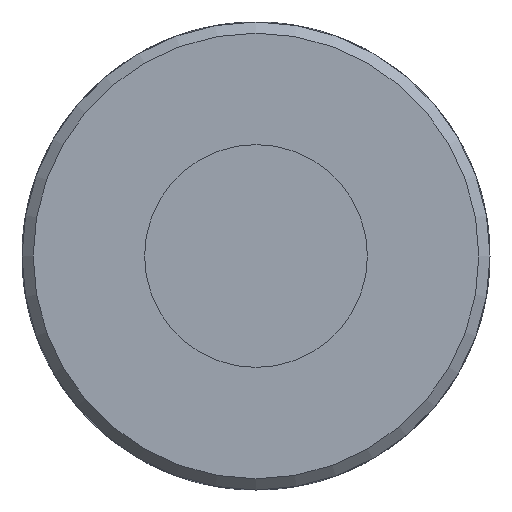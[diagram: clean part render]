
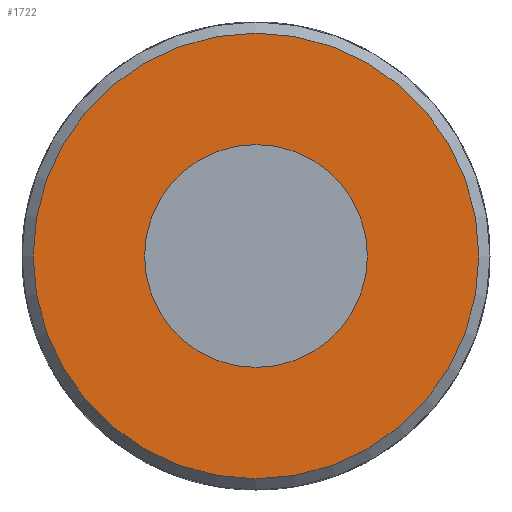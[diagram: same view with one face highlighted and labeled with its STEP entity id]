
A CAD part, front view. The second image highlights one B-rep face of the part: STEP entity #1722.
In plain terms, the highlighted planar face has unit normal (0, -1, 0).
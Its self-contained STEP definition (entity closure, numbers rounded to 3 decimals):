
#200=PLANE('',#1903);
#372=FACE_BOUND('',#605,.T.);
#460=FACE_OUTER_BOUND('',#604,.T.);
#604=EDGE_LOOP('',(#1503));
#605=EDGE_LOOP('',(#1504));
#704=CIRCLE('',#1898,10.);
#706=CIRCLE('',#1901,20.);
#850=VERTEX_POINT('',#3319);
#852=VERTEX_POINT('',#3324);
#1069=EDGE_CURVE('',#850,#850,#704,.T.);
#1071=EDGE_CURVE('',#852,#852,#706,.T.);
#1503=ORIENTED_EDGE('',*,*,#1071,.F.);
#1504=ORIENTED_EDGE('',*,*,#1069,.T.);
#1722=ADVANCED_FACE('',(#460,#372),#200,.F.);
#1898=AXIS2_PLACEMENT_3D('',#3320,#2284,#2285);
#1901=AXIS2_PLACEMENT_3D('',#3325,#2290,#2291);
#1903=AXIS2_PLACEMENT_3D('',#3549,#2298,#2299);
#2284=DIRECTION('center_axis',(0.,1.,0.));
#2285=DIRECTION('ref_axis',(-1.,0.,0.));
#2290=DIRECTION('center_axis',(0.,1.,0.));
#2291=DIRECTION('ref_axis',(1.,0.,0.));
#2298=DIRECTION('center_axis',(0.,1.,0.));
#2299=DIRECTION('ref_axis',(0.,0.,1.));
#3319=CARTESIAN_POINT('',(10.,-51.,0.));
#3320=CARTESIAN_POINT('Origin',(0.,-51.,0.));
#3324=CARTESIAN_POINT('',(-20.,-51.,0.));
#3325=CARTESIAN_POINT('Origin',(0.,-51.,0.));
#3549=CARTESIAN_POINT('Origin',(0.,-51.,0.));
